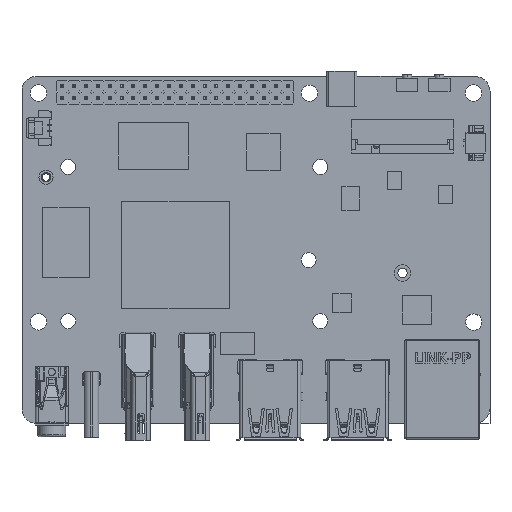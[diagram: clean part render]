
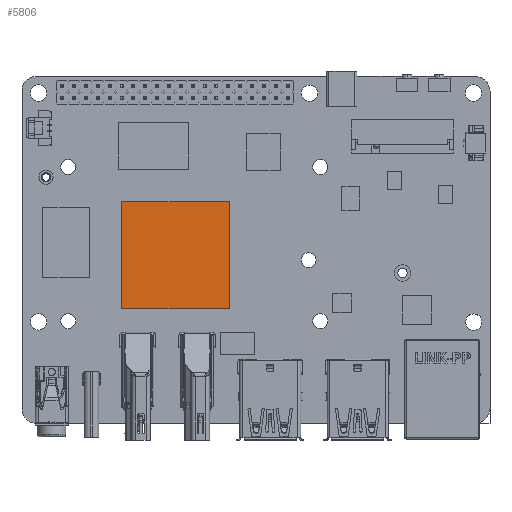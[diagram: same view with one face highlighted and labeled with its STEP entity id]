
A CAD part, top view. The second image highlights one B-rep face of the part: STEP entity #5806.
In plain terms, the highlighted planar face has unit normal (0, 0, 1).
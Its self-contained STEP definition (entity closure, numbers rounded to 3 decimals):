
#2597=DIRECTION('',(0.,-1.,0.));
#2598=VECTOR('',#2597,23.);
#2599=CARTESIAN_POINT('',(-11.5,11.5,1.5));
#2600=LINE('',#2599,#2598);
#2604=DIRECTION('',(-1.,0.,0.));
#2605=VECTOR('',#2604,23.);
#2606=CARTESIAN_POINT('',(11.5,11.5,1.5));
#2607=LINE('',#2606,#2605);
#2611=DIRECTION('',(0.,1.,0.));
#2612=VECTOR('',#2611,23.);
#2613=CARTESIAN_POINT('',(11.5,-11.5,1.5));
#2614=LINE('',#2613,#2612);
#2618=DIRECTION('',(1.,0.,0.));
#2619=VECTOR('',#2618,23.);
#2620=CARTESIAN_POINT('',(-11.5,-11.5,1.5));
#2621=LINE('',#2620,#2619);
#4343=CARTESIAN_POINT('',(-11.5,11.5,1.5));
#4344=CARTESIAN_POINT('',(-11.5,-11.5,1.5));
#4345=VERTEX_POINT('',#4343);
#4346=VERTEX_POINT('',#4344);
#4347=CARTESIAN_POINT('',(11.5,-11.5,1.5));
#4348=VERTEX_POINT('',#4347);
#4349=CARTESIAN_POINT('',(11.5,11.5,1.5));
#4350=VERTEX_POINT('',#4349);
#5795=CARTESIAN_POINT('',(0.,0.,1.5));
#5796=DIRECTION('',(0.,0.,1.));
#5797=DIRECTION('',(1.,0.,0.));
#5798=AXIS2_PLACEMENT_3D('',#5795,#5796,#5797);
#5799=PLANE('',#5798);
#5800=ORIENTED_EDGE('',*,*,#5719,.F.);
#5801=ORIENTED_EDGE('',*,*,#5741,.F.);
#5802=ORIENTED_EDGE('',*,*,#5762,.F.);
#5803=ORIENTED_EDGE('',*,*,#5782,.F.);
#5804=EDGE_LOOP('',(#5800,#5801,#5802,#5803));
#5805=FACE_OUTER_BOUND('',#5804,.F.);
#5806=ADVANCED_FACE('',(#5805),#5799,.T.);
#5719=EDGE_CURVE('',#4345,#4346,#2600,.T.);
#5741=EDGE_CURVE('',#4350,#4345,#2607,.T.);
#5762=EDGE_CURVE('',#4348,#4350,#2614,.T.);
#5782=EDGE_CURVE('',#4346,#4348,#2621,.T.);
